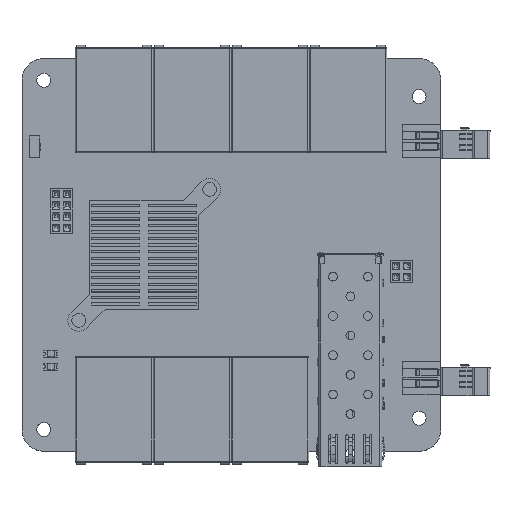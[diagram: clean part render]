
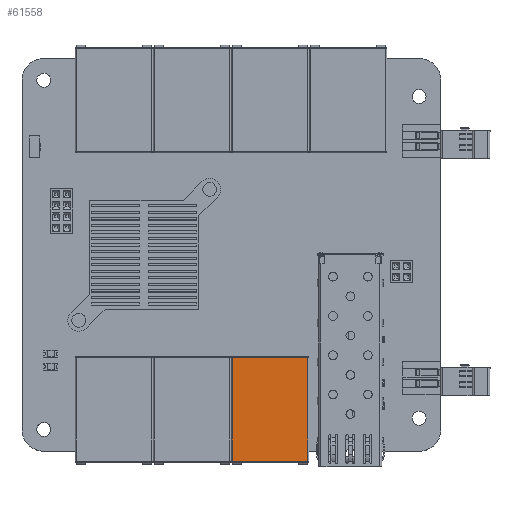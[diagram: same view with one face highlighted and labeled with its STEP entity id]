
A CAD part, top view. The second image highlights one B-rep face of the part: STEP entity #61558.
In plain terms, the highlighted planar face has unit normal (0, 0, 1).
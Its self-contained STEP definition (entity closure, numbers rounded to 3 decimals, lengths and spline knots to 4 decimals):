
#6129=FACE_OUTER_BOUND('',#9385,.T.);
#9385=EDGE_LOOP('',(#44973,#44974,#44975,#44976));
#14179=LINE('',#88679,#21580);
#14184=LINE('',#88694,#21585);
#14185=LINE('',#88696,#21586);
#14189=LINE('',#88703,#21590);
#21580=VECTOR('',#72125,0.3937);
#21585=VECTOR('',#72142,0.3937);
#21586=VECTOR('',#72145,0.3937);
#21590=VECTOR('',#72151,0.3937);
#28436=VERTEX_POINT('',#88657);
#28439=VERTEX_POINT('',#88665);
#28440=VERTEX_POINT('',#88669);
#28444=VERTEX_POINT('',#88683);
#34663=EDGE_CURVE('',#28436,#28440,#14179,.T.);
#34671=EDGE_CURVE('',#28440,#28444,#14184,.T.);
#34672=EDGE_CURVE('',#28444,#28439,#14185,.T.);
#34676=EDGE_CURVE('',#28439,#28436,#14189,.T.);
#44973=ORIENTED_EDGE('',*,*,#34663,.F.);
#44974=ORIENTED_EDGE('',*,*,#34676,.F.);
#44975=ORIENTED_EDGE('',*,*,#34672,.F.);
#44976=ORIENTED_EDGE('',*,*,#34671,.F.);
#58913=PLANE('',#64952);
#61558=ADVANCED_FACE('',(#6129),#58913,.T.);
#64952=AXIS2_PLACEMENT_3D('',#88746,#72181,#72182);
#72125=DIRECTION('',(1.,0.,0.));
#72142=DIRECTION('',(0.,-1.,0.));
#72145=DIRECTION('',(-1.,0.,0.));
#72151=DIRECTION('',(0.,1.,0.));
#72181=DIRECTION('center_axis',(0.,0.,1.));
#72182=DIRECTION('ref_axis',(0.,-1.,0.));
#88657=CARTESIAN_POINT('',(1.8982,0.8416,0.5237));
#88665=CARTESIAN_POINT('',(1.8982,-0.0884,0.5237));
#88669=CARTESIAN_POINT('',(2.5782,0.8416,0.5237));
#88679=CARTESIAN_POINT('',(1.8882,0.8416,0.5237));
#88683=CARTESIAN_POINT('',(2.5782,-0.0884,0.5237));
#88694=CARTESIAN_POINT('',(2.5782,0.8516,0.5237));
#88696=CARTESIAN_POINT('',(2.2382,-0.0884,0.5237));
#88703=CARTESIAN_POINT('',(1.8982,0.3766,0.5237));
#88746=CARTESIAN_POINT('Origin',(1.8882,0.8516,0.5237));
